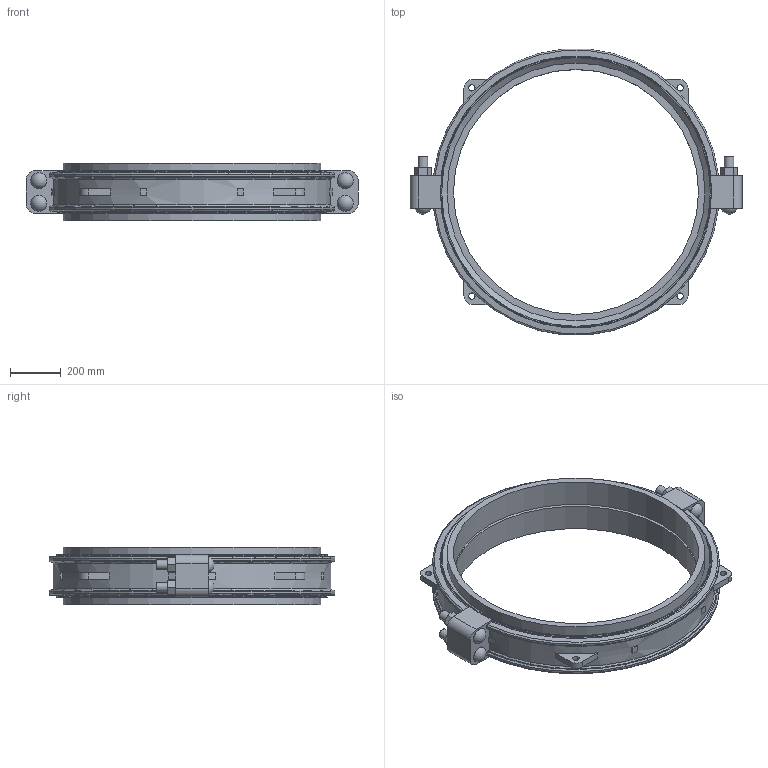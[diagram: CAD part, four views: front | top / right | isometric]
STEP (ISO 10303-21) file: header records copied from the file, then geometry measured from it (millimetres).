
FILE_DESCRIPTION(/* description */ ('VIC COUPLING FLEX STYLE W77 AGS VIC-RING ','CAx-IF Rec.Pracs.---Representation and Presentation of Product Manufacturing Information (PMI)---4.0---2014-10-13'),/* implementation_level */ '2;1');
FILE_NAME(/* name */ 'C:\Users\Vjadhav\AppData\Roaming\Autodesk\ApplicationPlugins\Victaulic.Temp\A52\Victaulic_Vic-Ring_Coupling Flexible_Style W77 (AGR)_40 (1000).stp',/* time_stamp */ '2021-12-20T11:05:58+06:00',/* author */ ('Vjadhav'),/* organization */ ('Victaulic'),/* preprocessor_version */ 'ST-DEVELOPER v17.2',/* originating_system */ 'Autodesk Inventor 2019',/* authorisation */ '');
FILE_SCHEMA (('AP242_MANAGED_MODEL_BASED_3D_ENGINEERING_MIM_LF { 1 0 10303 442 1 1 4 }'));
Length unit declared in the file: inch
Products named in the file (3): W77 VR-40.0; W77 VR-40.0_1; W77 VR-40.0_2
Assembly tree (3 placements, depth 2):
  W77 VR-40.0
    W77 VR-40.0_1
    W77 VR-40.0_2  x2
Bounding box: 1308.1 x 1126.14 x 226.06 mm (x, y, z)
Volume: 46365455.6 mm3; surface area: 3557655 mm2
Topology: 3 solids, 7 shells, 187 faces, 491 edges, 340 vertices
Faces by surface type: plane 110, cylinder 47, torus 16, cone 10, sphere 4
Full cylindrical faces by diameter (mm): 25.4 x4, 38.1 x8, 63.5 x4, 965.2 x2, 996.95 x1, 1016 x4, 1066.8 x2
Entity records: 6491 total; most frequent: CARTESIAN_POINT 1514, DIRECTION 987, ORIENTED_EDGE 962, EDGE_CURVE 481, AXIS2_PLACEMENT_3D 365, VERTEX_POINT 332, LINE 257, VECTOR 257
